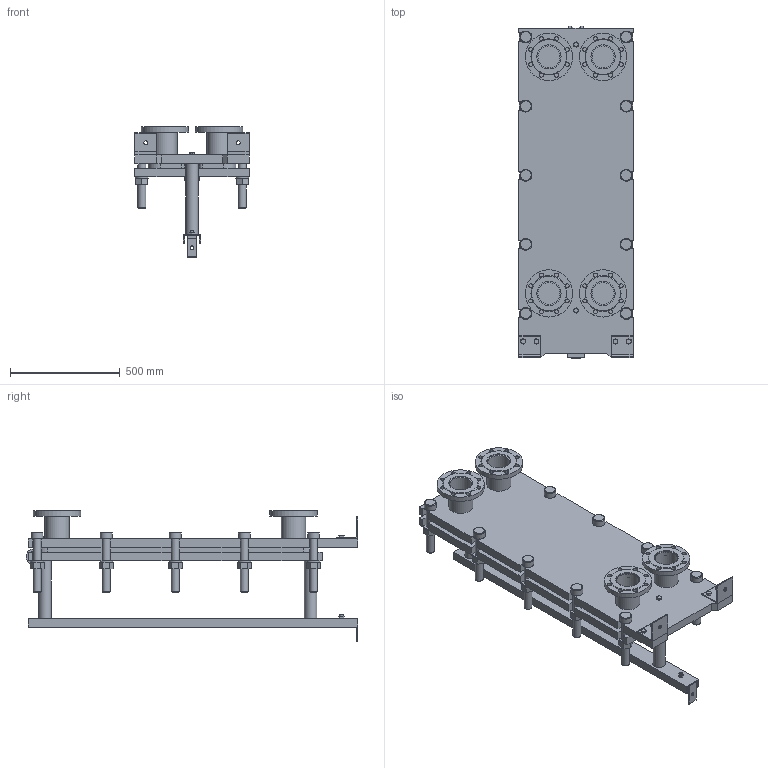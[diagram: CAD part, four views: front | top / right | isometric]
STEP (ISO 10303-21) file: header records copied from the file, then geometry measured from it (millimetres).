
FILE_DESCRIPTION(/* description */ (''),/* implementation_level */ '2;1');
FILE_NAME(/* name */ 'C:\Users\zhuro\Desktop\ENCO\TO\ЭН-04\ЭН-0,5-04-6-1.stp',/* time_stamp */ '2022-06-06T10:45:00+03:00',/* author */ ('zhuro'),/* organization */ (''),/* preprocessor_version */ 'ST-DEVELOPER v18.1',/* originating_system */ 'Autodesk Inventor 2022',/* authorisation */ '');
FILE_SCHEMA (('AUTOMOTIVE_DESIGN { 1 0 10303 214 3 1 1 }'));
Length unit declared in the file: millimetre
Products named in the file (1): ЭН-0,5-04-6-1
Bounding box: 520 x 1510 x 598 mm (x, y, z)
Volume: 76490629.7 mm3; surface area: 6288193.1 mm2
Topology: 45 solids, 45 shells, 668 faces, 1611 edges, 1048 vertices
Faces by surface type: plane 457, cylinder 166, cone 39, torus 6
Full cylindrical faces by diameter (mm): 8 x4, 10 x2, 16 x8, 18 x35, 36 x25, 40 x2, 42 x1, 45 x4, 54 x10, 57 x2, 60 x10, 68 x2, 100 x4, 110 x8, 215 x4
Entity records: 23607 total; most frequent: CARTESIAN_POINT 7348, DIRECTION 3371, ORIENTED_EDGE 3142, EDGE_CURVE 1571, AXIS2_PLACEMENT_3D 1199, VERTEX_POINT 1044, LINE 973, VECTOR 973
